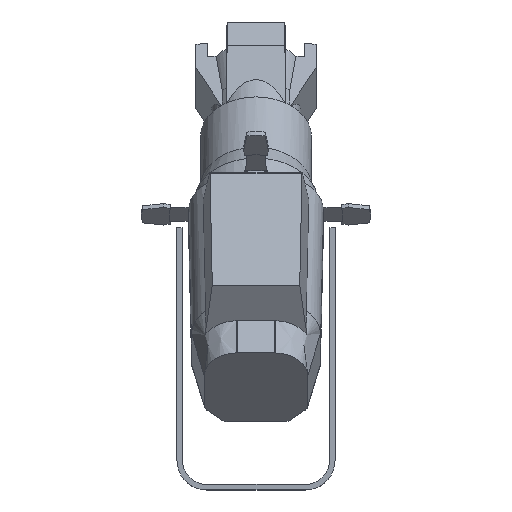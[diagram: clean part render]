
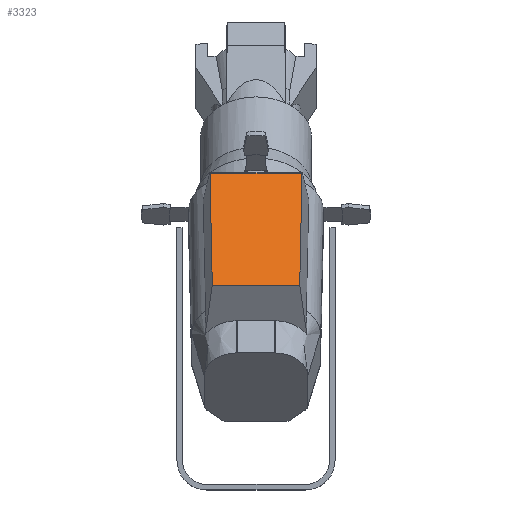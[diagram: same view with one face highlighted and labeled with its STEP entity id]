
A CAD part, top view. The second image highlights one B-rep face of the part: STEP entity #3323.
In plain terms, the highlighted planar face has unit normal (0, 0.702, 0.712) as drawn and (0, 1, 0.007) by its records, which use the part's own axes.
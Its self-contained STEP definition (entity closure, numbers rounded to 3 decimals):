
#209=PLANE('',#3624);
#475=FACE_OUTER_BOUND('',#665,.T.);
#665=EDGE_LOOP('',(#2876,#2877,#2878,#2879));
#925=LINE('',#5425,#1230);
#958=LINE('',#5924,#1263);
#961=LINE('',#5934,#1266);
#962=LINE('',#5935,#1267);
#1230=VECTOR('',#4322,10.);
#1263=VECTOR('',#4385,10.);
#1266=VECTOR('',#4392,10.);
#1267=VECTOR('',#4393,10.);
#1565=VERTEX_POINT('',#5422);
#1566=VERTEX_POINT('',#5424);
#1605=VERTEX_POINT('',#5921);
#1606=VERTEX_POINT('',#5923);
#1990=EDGE_CURVE('',#1565,#1566,#925,.T.);
#2048=EDGE_CURVE('',#1606,#1605,#958,.T.);
#2052=EDGE_CURVE('',#1605,#1566,#961,.T.);
#2053=EDGE_CURVE('',#1606,#1565,#962,.T.);
#2876=ORIENTED_EDGE('',*,*,#2052,.T.);
#2877=ORIENTED_EDGE('',*,*,#1990,.F.);
#2878=ORIENTED_EDGE('',*,*,#2053,.F.);
#2879=ORIENTED_EDGE('',*,*,#2048,.T.);
#3323=ADVANCED_FACE('',(#475),#209,.T.);
#3624=AXIS2_PLACEMENT_3D('',#5933,#4390,#4391);
#4322=DIRECTION('',(-0.015,-0.007,1.));
#4385=DIRECTION('',(0.015,-0.007,1.));
#4390=DIRECTION('center_axis',(0.,1.,0.007));
#4391=DIRECTION('ref_axis',(0.,-0.007,1.));
#4392=DIRECTION('',(1.,0.,0.));
#4393=DIRECTION('',(1.,0.,0.));
#5422=CARTESIAN_POINT('',(66.66,145.687,-72.702));
#5424=CARTESIAN_POINT('',(63.318,144.091,154.825));
#5425=CARTESIAN_POINT('',(65.491,145.128,6.882));
#5921=CARTESIAN_POINT('',(-63.318,144.091,154.825));
#5923=CARTESIAN_POINT('',(-66.66,145.687,-72.702));
#5924=CARTESIAN_POINT('',(-65.491,145.128,6.882));
#5933=CARTESIAN_POINT('Origin',(-23.12,144.826,50.034));
#5934=CARTESIAN_POINT('',(25.573,144.091,154.825));
#5935=CARTESIAN_POINT('',(23.12,145.687,-72.702));
